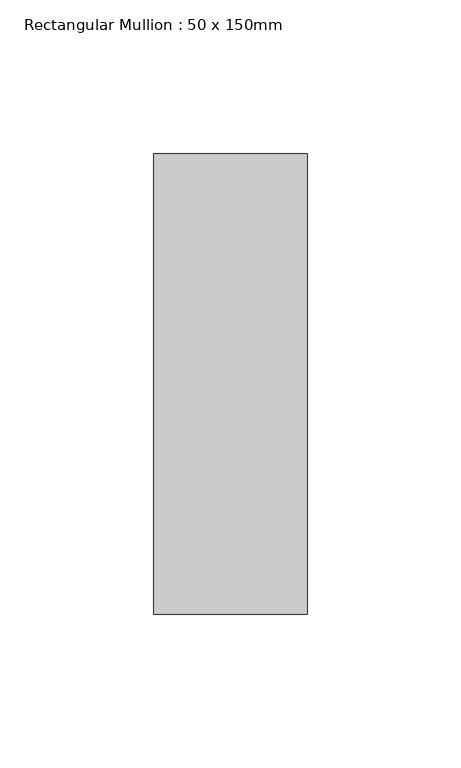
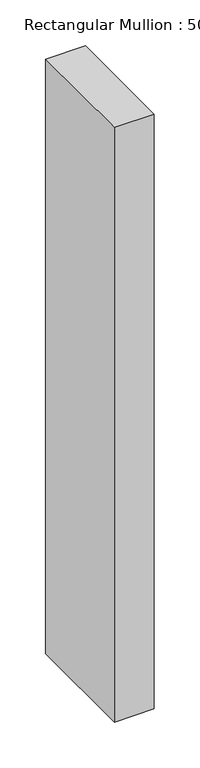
"""IFC4 building model written with IfcOpenShell, lengths in millimetres: member geometry, Rectangular Mullion : 50 x 150mm."""

from ifc_helpers import new_model, si_unit, frame, origin, place, context, project, spatial, polyline, outline, extrude, source, transform, mapped, element, save


def rectangular_mullion_50_x_150mm_636d1770(model_context):
    return source(origin(), model_context, "Body", "SweptSolid", [
        extrude(outline(polyline([(0.0, 75.0), (0.0, -75.0), (-50.0, -75.0), (-50.0, 75.0), (0.0, 75.0)])), frame((0.0, 0.0, -791.6666665), z_axis=(0.0, 0.0, 1.0), x_axis=(1.0, 0.0, 0.0)), (0.0, 0.0, 1.0), 791.6666665),
    ])


if __name__ == "__main__":
    model = new_model("IFC4")
    model_context = context("Model", 3, world=origin())
    ifc_project = project(units=[si_unit("LENGTHUNIT", "METRE", prefix="MILLI")], contexts=[model_context])
    site = spatial("IfcSite", under=ifc_project)
    building = spatial("IfcBuilding", under=site)
    placement = place(None, origin())
    rectangular_mullion_50_x_150mm_shape = rectangular_mullion_50_x_150mm_636d1770(model_context)
    element("IfcMember", 1, ObjectType="Rectangular Mullion : 50 x 150mm", at=placement, inside=building, context=model_context, shape_type="MappedRepresentation", body=[
        mapped(rectangular_mullion_50_x_150mm_shape, transform((0.0, 0.0, 0.0), x_axis=(1.0, 0.0, 0.0), y_axis=(0.0, 1.0, 0.0), z_axis=(0.0, 0.0, 1.0))),
    ])
    save(model, "model.ifc")
